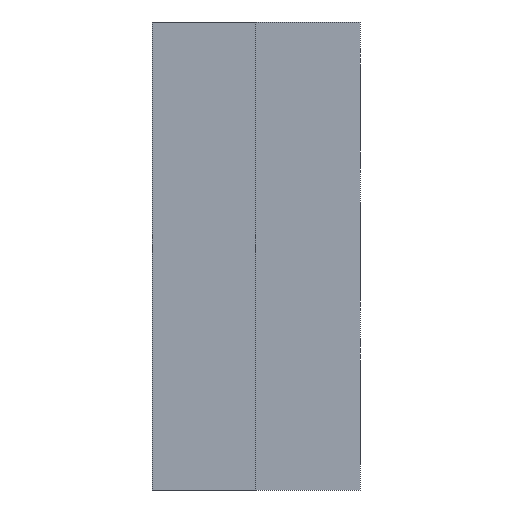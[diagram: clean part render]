
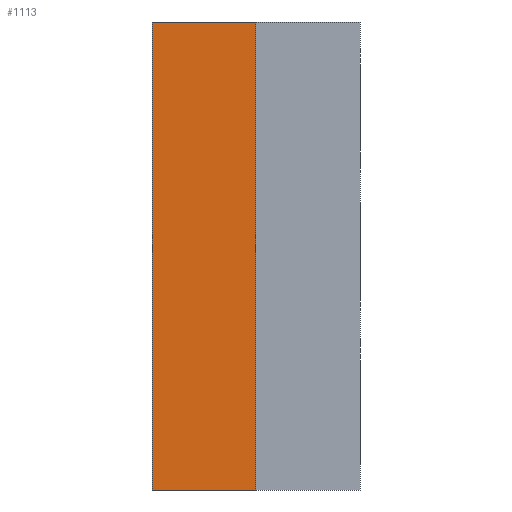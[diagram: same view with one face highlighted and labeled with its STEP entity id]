
A CAD part, left-side view. The second image highlights one B-rep face of the part: STEP entity #1113.
In plain terms, the highlighted planar face has unit normal (-1, 0, 0).
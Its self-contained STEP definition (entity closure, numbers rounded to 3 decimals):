
#1=DIRECTION('',(0.,0.,1.));
#2=VECTOR('',#1,45.);
#3=CARTESIAN_POINT('',(-22.5,0.,-22.5));
#4=LINE('',#3,#2);
#87=DIRECTION('',(0.,1.,0.));
#88=VECTOR('',#87,10.);
#89=CARTESIAN_POINT('',(-22.5,0.,-22.5));
#90=LINE('',#89,#88);
#99=DIRECTION('',(0.,1.,0.));
#100=VECTOR('',#99,10.);
#101=CARTESIAN_POINT('',(-22.5,0.,22.5));
#102=LINE('',#101,#100);
#103=DIRECTION('',(0.,0.,1.));
#104=VECTOR('',#103,45.);
#105=CARTESIAN_POINT('',(-22.5,10.,-22.5));
#106=LINE('',#105,#104);
#801=CARTESIAN_POINT('',(-22.5,0.,-22.5));
#802=CARTESIAN_POINT('',(-22.5,0.,22.5));
#803=VERTEX_POINT('',#801);
#804=VERTEX_POINT('',#802);
#809=CARTESIAN_POINT('',(-22.5,10.,-22.5));
#810=CARTESIAN_POINT('',(-22.5,10.,22.5));
#811=VERTEX_POINT('',#809);
#812=VERTEX_POINT('',#810);
#1099=CARTESIAN_POINT('',(-22.5,0.,-22.5));
#1100=DIRECTION('',(-1.,0.,0.));
#1101=DIRECTION('',(0.,0.,1.));
#1102=AXIS2_PLACEMENT_3D('',#1099,#1100,#1101);
#1103=PLANE('',#1102);
#1104=ORIENTED_EDGE('',*,*,#1046,.F.);
#1106=ORIENTED_EDGE('',*,*,#1105,.T.);
#1108=ORIENTED_EDGE('',*,*,#1107,.T.);
#1110=ORIENTED_EDGE('',*,*,#1109,.F.);
#1111=EDGE_LOOP('',(#1104,#1106,#1108,#1110));
#1112=FACE_OUTER_BOUND('',#1111,.F.);
#1113=ADVANCED_FACE('',(#1112),#1103,.T.);
#1046=EDGE_CURVE('',#803,#804,#4,.T.);
#1105=EDGE_CURVE('',#803,#811,#90,.T.);
#1107=EDGE_CURVE('',#811,#812,#106,.T.);
#1109=EDGE_CURVE('',#804,#812,#102,.T.);
